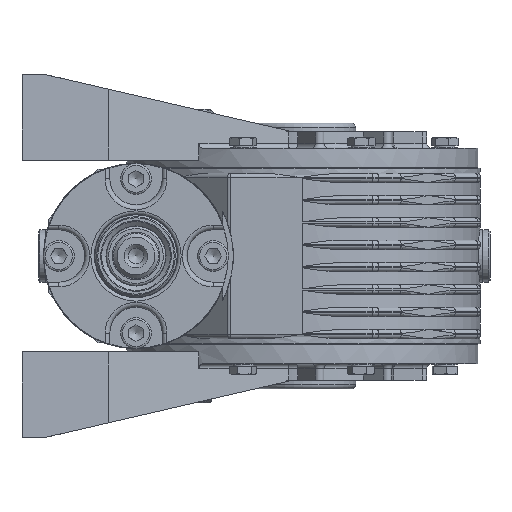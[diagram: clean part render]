
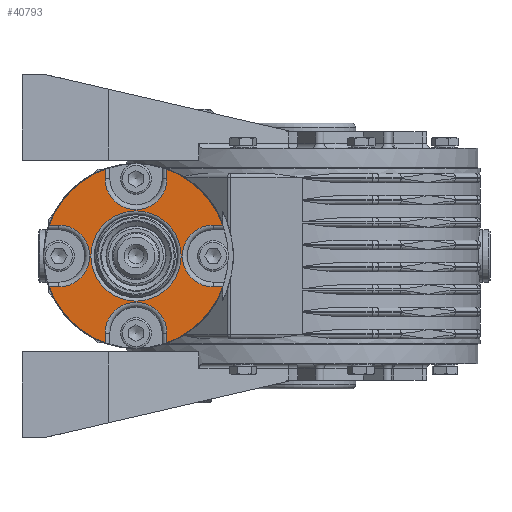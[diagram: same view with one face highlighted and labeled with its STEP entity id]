
A CAD part, left-side view. The second image highlights one B-rep face of the part: STEP entity #40793.
In plain terms, the highlighted planar face has unit normal (-1, 0, 0).
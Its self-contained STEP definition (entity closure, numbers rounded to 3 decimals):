
#40224=CARTESIAN_POINT('',(0.,13.,-32.5));
#40225=VERTEX_POINT('',#40224);
#40244=CARTESIAN_POINT('',(0.,-13.,-32.5));
#40245=VERTEX_POINT('',#40244);
#40253=CARTESIAN_POINT('',(0.,0.,-32.5));
#40254=DIRECTION('',(-1.0,0.0,0.0));
#40255=DIRECTION('',(0.0,0.0,1.0));
#40256=AXIS2_PLACEMENT_3D('',#40253,#40254,#40255);
#40257=CIRCLE('',#40256,13.0);
#40258=EDGE_CURVE('',#40245,#40225,#40257,.T.);
#40268=CARTESIAN_POINT('',(0.,13.,-36.504));
#40269=VERTEX_POINT('',#40268);
#40292=CARTESIAN_POINT('',(0.,13.,-32.5));
#40293=DIRECTION('',(0.0,0.0,-1.0));
#40294=VECTOR('',#40293,4.004);
#40295=LINE('',#40292,#40294);
#40296=EDGE_CURVE('',#40225,#40269,#40295,.T.);
#40308=CARTESIAN_POINT('',(0.,-13.,-36.504));
#40309=VERTEX_POINT('',#40308);
#40323=CARTESIAN_POINT('',(0.,-13.,-36.504));
#40324=DIRECTION('',(0.0,0.0,1.0));
#40325=VECTOR('',#40324,4.004);
#40326=LINE('',#40323,#40325);
#40327=EDGE_CURVE('',#40309,#40245,#40326,.T.);
#40380=CARTESIAN_POINT('',(0.,36.504,-13.));
#40381=VERTEX_POINT('',#40380);
#40382=CARTESIAN_POINT('',(0.,0.,0.0));
#40383=DIRECTION('',(1.0,0.0,0.0));
#40384=DIRECTION('',(0.0,1.0,0.0));
#40385=AXIS2_PLACEMENT_3D('',#40382,#40383,#40384);
#40386=CIRCLE('',#40385,38.75);
#40387=EDGE_CURVE('',#40269,#40381,#40386,.T.);
#40429=CARTESIAN_POINT('',(0.,36.504,13.));
#40430=VERTEX_POINT('',#40429);
#40444=CARTESIAN_POINT('',(0.,13.,36.504));
#40445=VERTEX_POINT('',#40444);
#40446=CARTESIAN_POINT('',(0.,0.,0.0));
#40447=DIRECTION('',(1.0,0.0,0.0));
#40448=DIRECTION('',(0.0,1.0,0.0));
#40449=AXIS2_PLACEMENT_3D('',#40446,#40447,#40448);
#40450=CIRCLE('',#40449,38.75);
#40451=EDGE_CURVE('',#40430,#40445,#40450,.T.);
#40493=CARTESIAN_POINT('',(0.,-13.,36.504));
#40494=VERTEX_POINT('',#40493);
#40508=CARTESIAN_POINT('',(0.,-36.504,13.));
#40509=VERTEX_POINT('',#40508);
#40510=CARTESIAN_POINT('',(0.,0.,0.0));
#40511=DIRECTION('',(1.0,0.0,0.0));
#40512=DIRECTION('',(0.0,1.0,0.0));
#40513=AXIS2_PLACEMENT_3D('',#40510,#40511,#40512);
#40514=CIRCLE('',#40513,38.75);
#40515=EDGE_CURVE('',#40494,#40509,#40514,.T.);
#40557=CARTESIAN_POINT('',(0.,-36.504,-13.));
#40558=VERTEX_POINT('',#40557);
#40572=CARTESIAN_POINT('',(0.,0.,0.0));
#40573=DIRECTION('',(1.0,0.0,0.0));
#40574=DIRECTION('',(0.0,1.0,0.0));
#40575=AXIS2_PLACEMENT_3D('',#40572,#40573,#40574);
#40576=CIRCLE('',#40575,38.75);
#40577=EDGE_CURVE('',#40558,#40309,#40576,.T.);
#40636=CARTESIAN_POINT('',(0.,-32.5,-13.0));
#40637=VERTEX_POINT('',#40636);
#40656=CARTESIAN_POINT('',(0.,-32.5,13.0));
#40657=VERTEX_POINT('',#40656);
#40665=CARTESIAN_POINT('',(0.,-32.5,0.));
#40666=DIRECTION('',(-1.0,0.0,0.0));
#40667=DIRECTION('',(0.0,1.0,0.0));
#40668=AXIS2_PLACEMENT_3D('',#40665,#40666,#40667);
#40669=CIRCLE('',#40668,13.0);
#40670=EDGE_CURVE('',#40657,#40637,#40669,.T.);
#40688=CARTESIAN_POINT('',(0.,-32.5,-13.0));
#40689=DIRECTION('',(0.0,-1.0,0.0));
#40690=VECTOR('',#40689,4.004);
#40691=LINE('',#40688,#40690);
#40692=EDGE_CURVE('',#40637,#40558,#40691,.T.);
#40703=CARTESIAN_POINT('',(0.,-36.504,13.0));
#40704=DIRECTION('',(0.0,1.0,0.0));
#40705=VECTOR('',#40704,4.004);
#40706=LINE('',#40703,#40705);
#40707=EDGE_CURVE('',#40509,#40657,#40706,.T.);
#40719=CARTESIAN_POINT('',(0.,28.125,0.0));
#40720=DIRECTION('',(-1.0,0.0,0.0));
#40721=DIRECTION('',(0.0,0.0,1.0));
#40722=AXIS2_PLACEMENT_3D('',#40719,#40720,#40721);
#40723=PLANE('',#40722);
#40724=ORIENTED_EDGE('',*,*,#40327,.F.);
#40725=ORIENTED_EDGE('',*,*,#40577,.F.);
#40726=ORIENTED_EDGE('',*,*,#40692,.F.);
#40727=ORIENTED_EDGE('',*,*,#40670,.F.);
#40728=ORIENTED_EDGE('',*,*,#40707,.F.);
#40729=ORIENTED_EDGE('',*,*,#40515,.F.);
#40730=CARTESIAN_POINT('',(0.,-13.,32.5));
#40731=VERTEX_POINT('',#40730);
#40732=CARTESIAN_POINT('',(0.,-13.,32.5));
#40733=DIRECTION('',(0.0,0.0,1.0));
#40734=VECTOR('',#40733,4.004);
#40735=LINE('',#40732,#40734);
#40736=EDGE_CURVE('',#40731,#40494,#40735,.T.);
#40737=ORIENTED_EDGE('',*,*,#40736,.F.);
#40738=CARTESIAN_POINT('',(0.,13.,32.5));
#40739=VERTEX_POINT('',#40738);
#40740=CARTESIAN_POINT('',(0.,0.,32.5));
#40741=DIRECTION('',(-1.0,0.0,0.0));
#40742=DIRECTION('',(0.0,0.0,-1.0));
#40743=AXIS2_PLACEMENT_3D('',#40740,#40741,#40742);
#40744=CIRCLE('',#40743,13.0);
#40745=EDGE_CURVE('',#40739,#40731,#40744,.T.);
#40746=ORIENTED_EDGE('',*,*,#40745,.F.);
#40747=CARTESIAN_POINT('',(0.,13.,36.504));
#40748=DIRECTION('',(0.0,0.0,-1.0));
#40749=VECTOR('',#40748,4.004);
#40750=LINE('',#40747,#40749);
#40751=EDGE_CURVE('',#40445,#40739,#40750,.T.);
#40752=ORIENTED_EDGE('',*,*,#40751,.F.);
#40753=ORIENTED_EDGE('',*,*,#40451,.F.);
#40754=CARTESIAN_POINT('',(0.,32.5,13.));
#40755=VERTEX_POINT('',#40754);
#40756=CARTESIAN_POINT('',(0.,32.5,13.));
#40757=DIRECTION('',(0.0,1.0,0.0));
#40758=VECTOR('',#40757,4.004);
#40759=LINE('',#40756,#40758);
#40760=EDGE_CURVE('',#40755,#40430,#40759,.T.);
#40761=ORIENTED_EDGE('',*,*,#40760,.F.);
#40762=CARTESIAN_POINT('',(0.,32.5,-13.));
#40763=VERTEX_POINT('',#40762);
#40764=CARTESIAN_POINT('',(0.,32.5,0.));
#40765=DIRECTION('',(-1.0,0.0,0.0));
#40766=DIRECTION('',(0.0,-1.0,0.0));
#40767=AXIS2_PLACEMENT_3D('',#40764,#40765,#40766);
#40768=CIRCLE('',#40767,13.0);
#40769=EDGE_CURVE('',#40763,#40755,#40768,.T.);
#40770=ORIENTED_EDGE('',*,*,#40769,.F.);
#40771=CARTESIAN_POINT('',(0.,36.504,-13.));
#40772=DIRECTION('',(0.0,-1.0,0.0));
#40773=VECTOR('',#40772,4.004);
#40774=LINE('',#40771,#40773);
#40775=EDGE_CURVE('',#40381,#40763,#40774,.T.);
#40776=ORIENTED_EDGE('',*,*,#40775,.F.);
#40777=ORIENTED_EDGE('',*,*,#40387,.F.);
#40778=ORIENTED_EDGE('',*,*,#40296,.F.);
#40779=ORIENTED_EDGE('',*,*,#40258,.F.);
#40780=EDGE_LOOP('',(#40724,#40725,#40726,#40727,#40728,#40729,#40737,#40746,#40752,#40753,#40761,#40770,#40776,#40777,#40778,#40779));
#40781=FACE_OUTER_BOUND('',#40780,.T.);
#40782=CARTESIAN_POINT('',(0.,19.0,0.));
#40783=VERTEX_POINT('',#40782);
#40784=CARTESIAN_POINT('',(0.,0.,0.0));
#40785=DIRECTION('',(-1.0,0.0,0.0));
#40786=DIRECTION('',(0.0,-1.0,0.0));
#40787=AXIS2_PLACEMENT_3D('',#40784,#40785,#40786);
#40788=CIRCLE('',#40787,19.0);
#40789=EDGE_CURVE('',#40783,#40783,#40788,.T.);
#40790=ORIENTED_EDGE('',*,*,#40789,.F.);
#40791=EDGE_LOOP('',(#40790));
#40792=FACE_BOUND('',#40791,.T.);
#40793=ADVANCED_FACE('',(#40781,#40792),#40723,.T.);
